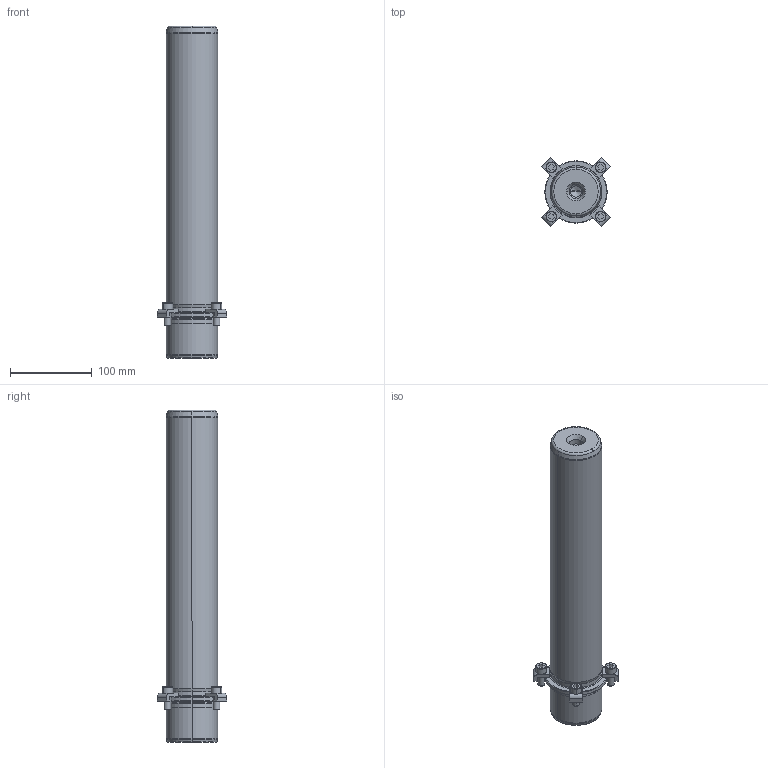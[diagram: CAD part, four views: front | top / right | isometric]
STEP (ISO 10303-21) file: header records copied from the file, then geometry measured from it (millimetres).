
FILE_DESCRIPTION((''),'2;1');
FILE_NAME('P21_063_355.stp','2008-12-23T09:23:45',(''),(''),'Mechanical Desktop 2009','Mechanical Desktop 2009',', , ');
FILE_SCHEMA(('CONFIG_CONTROL_DESIGN'));
Length unit declared in the file: millimetre
Products named in the file (2): Product; blmdl1
Assembly tree (1 placements, depth 2):
  Product
    blmdl1
Bounding box: 84.5 x 84.5 x 405 mm (x, y, z)
Volume: 1261866.1 mm3; surface area: 101785.1 mm2
Topology: 9 solids, 9 shells, 195 faces, 477 edges, 309 vertices
Faces by surface type: plane 77, cylinder 52, cone 34, torus 16, bspline 16
Entity records: 6547 total; most frequent: CARTESIAN_POINT 1683, DIRECTION 1078, ORIENTED_EDGE 946, EDGE_CURVE 473, AXIS2_PLACEMENT_3D 424, VERTEX_POINT 309, CIRCLE 243, VECTOR 230
